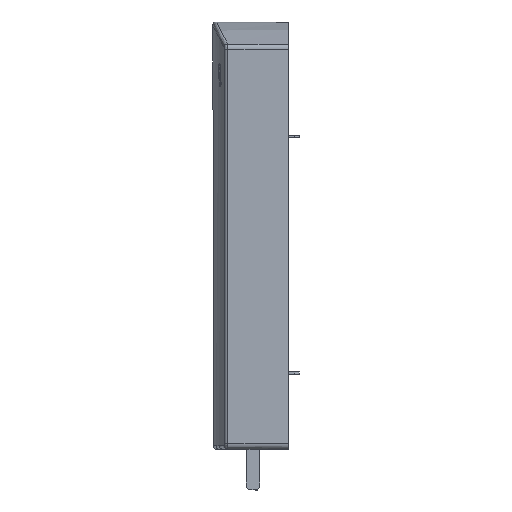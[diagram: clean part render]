
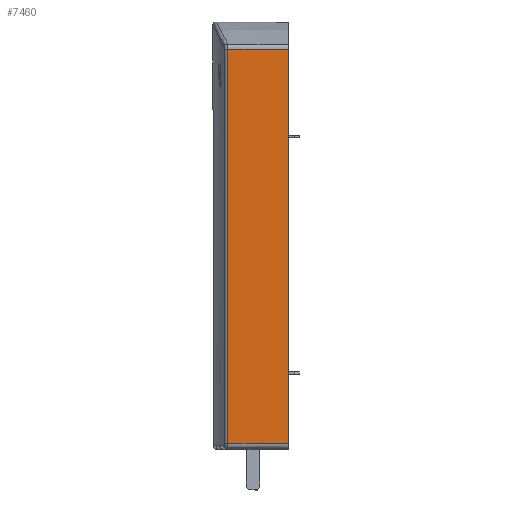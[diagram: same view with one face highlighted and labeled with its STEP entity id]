
A CAD part, top view. The second image highlights one B-rep face of the part: STEP entity #7460.
In plain terms, the highlighted planar face has unit normal (0, 0, 1).
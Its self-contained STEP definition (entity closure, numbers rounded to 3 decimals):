
#2603 = LINE ( 'NONE', #2604, #11101 ) ;
#2604 = CARTESIAN_POINT ( 'NONE',  ( -32.709, 207.096, 22.754 ) ) ;
#2605 = DIRECTION ( 'NONE',  ( 0., 1., 0. ) ) ;
#3076 = CARTESIAN_POINT ( 'NONE',  ( 0., -6.062, 22.754 ) ) ;
#3179 = CARTESIAN_POINT ( 'NONE',  ( -32.709, -6.062, 22.754 ) ) ;
#3185 = CARTESIAN_POINT ( 'NONE',  ( -32.709, 207.096, 22.754 ) ) ;
#3880 = VERTEX_POINT ( 'NONE', #6507 ) ;
#5499 = CARTESIAN_POINT ( 'NONE',  ( 0., 207.096, 22.754 ) ) ;
#5507 = LINE ( 'NONE', #5499, #10616 ) ;
#5511 = DIRECTION ( 'NONE',  ( 0., 1., 0. ) ) ;
#6121 = EDGE_CURVE ( 'NONE', #9602, #3880, #5507, .T. ) ;
#6507 = CARTESIAN_POINT ( 'NONE',  ( 0., 207.096, 22.754 ) ) ;
#6561 = VECTOR ( 'NONE', #12769, 1000. ) ;
#6567 = VECTOR ( 'NONE', #12781, 1000. ) ;
#6881 = ORIENTED_EDGE ( 'NONE', *, *, #8946, .T. ) ;
#6882 = ORIENTED_EDGE ( 'NONE', *, *, #6121, .T. ) ;
#6883 = ORIENTED_EDGE ( 'NONE', *, *, #8948, .F. ) ;
#6884 = ORIENTED_EDGE ( 'NONE', *, *, #7048, .F. ) ;
#7048 = EDGE_CURVE ( 'NONE', #9645, #9648, #2603, .T. ) ;
#7460 = ADVANCED_FACE ( 'NONE', ( #9968 ), #9986, .T. ) ;
#8081 = AXIS2_PLACEMENT_3D ( 'NONE', #9979, #9987, #9988 ) ;
#8946 = EDGE_CURVE ( 'NONE', #9645, #9602, #12765, .T. ) ;
#8948 = EDGE_CURVE ( 'NONE', #9648, #3880, #12770, .T. ) ;
#9602 = VERTEX_POINT ( 'NONE', #3076 ) ;
#9645 = VERTEX_POINT ( 'NONE', #3179 ) ;
#9648 = VERTEX_POINT ( 'NONE', #3185 ) ;
#9968 = FACE_OUTER_BOUND ( 'NONE', #11158, .T. ) ;
#9979 = CARTESIAN_POINT ( 'NONE',  ( -41.001, 207.096, 22.754 ) ) ;
#9986 = PLANE ( 'NONE',  #8081 ) ;
#9987 = DIRECTION ( 'NONE',  ( 0., 0., 1. ) ) ;
#9988 = DIRECTION ( 'NONE',  ( -1., 0., 0. ) ) ;
#10616 = VECTOR ( 'NONE', #5511, 1000. ) ;
#11101 = VECTOR ( 'NONE', #2605, 1000. ) ;
#11158 = EDGE_LOOP ( 'NONE', ( #6881, #6882, #6883, #6884 ) ) ;
#12765 = LINE ( 'NONE', #12768, #6561 ) ;
#12768 = CARTESIAN_POINT ( 'NONE',  ( -41.001, -6.062, 22.754 ) ) ;
#12769 = DIRECTION ( 'NONE',  ( 1., 0., 0. ) ) ;
#12770 = LINE ( 'NONE', #12780, #6567 ) ;
#12780 = CARTESIAN_POINT ( 'NONE',  ( -41.001, 207.096, 22.754 ) ) ;
#12781 = DIRECTION ( 'NONE',  ( 1., 0., 0. ) ) ;
